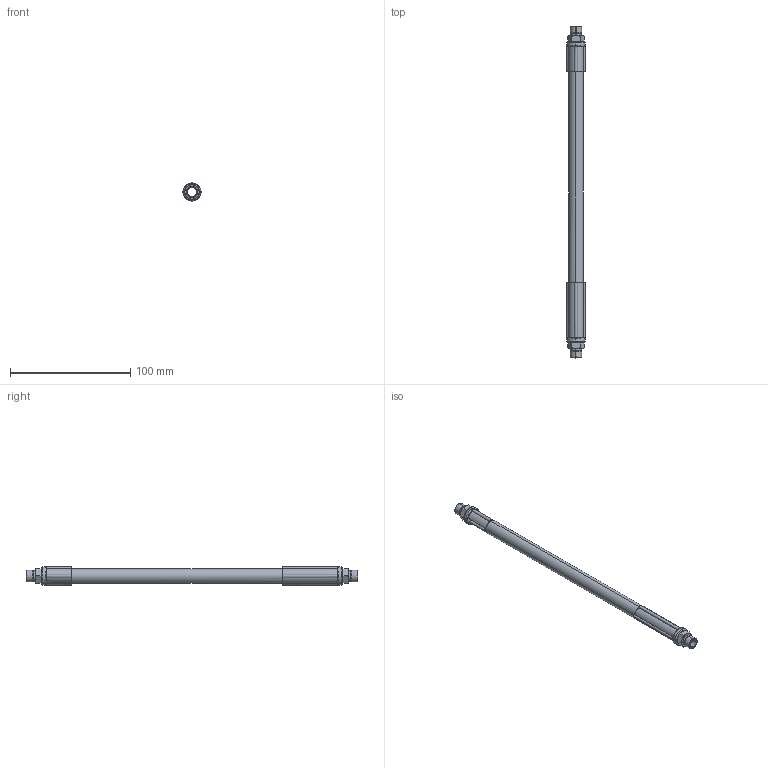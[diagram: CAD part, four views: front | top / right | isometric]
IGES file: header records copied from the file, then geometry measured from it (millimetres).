
Start section: SolidWorks IGES file using analytic representation for surfaces
Global section: file name: P:\SILVENT AB\ENGINEERING\Drawings\Övrigt\IGES\Silvent 863.IGS; native system: SolidWorks 2011; preprocessor: SolidWorks 2011; author: p.svensson; date: 130129.145354; units: millimetre
Bounding box: 15 x 276 x 15 mm (x, y, z)
Surface area: 17551.6 mm2 (no closed solid volume)
Topology: 0 solids, 0 shells, 139 faces, 1746 edges, 1738 vertices
Faces by surface type: revolution 74, bspline 65
